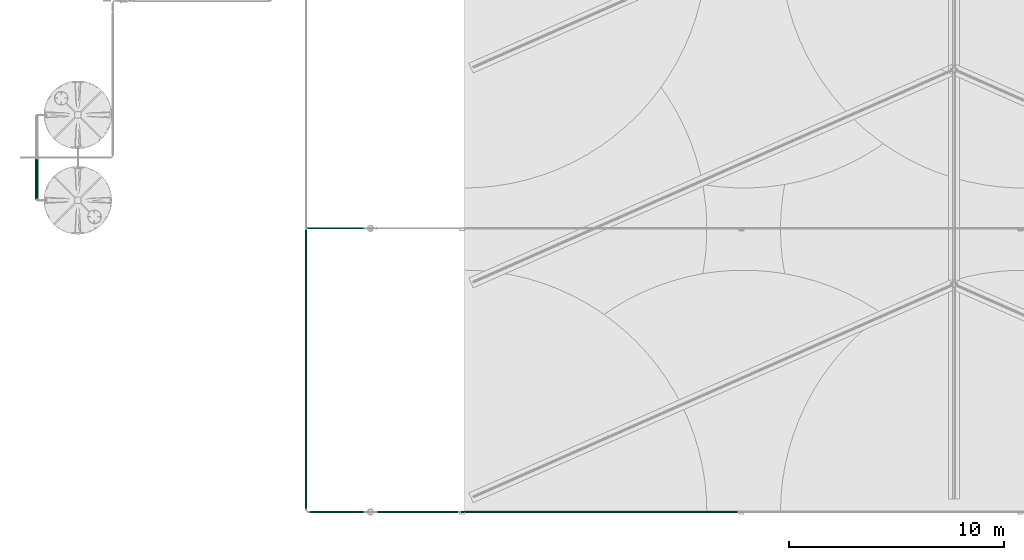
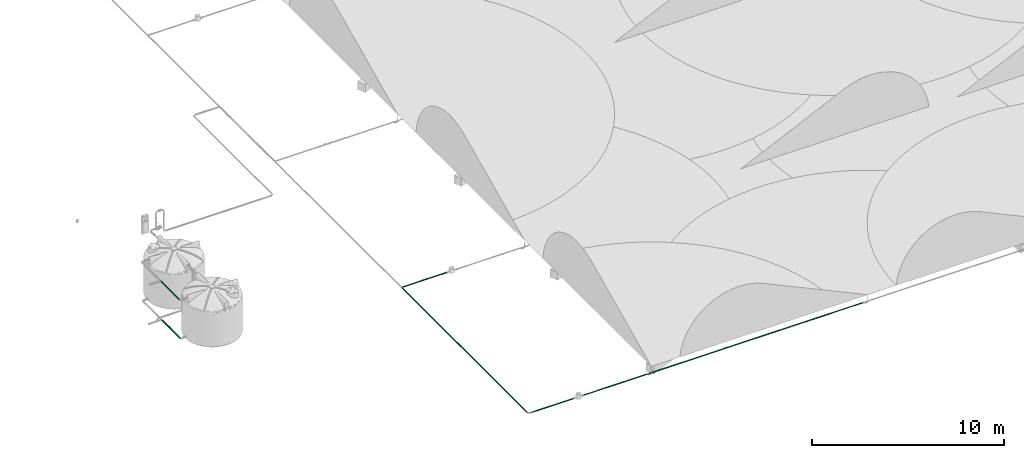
# One storey, part 3 of 166: 7 flow segments.
"""IFC2X3 building model written with IfcOpenShell, lengths in metres."""

from ifc_helpers import new_model, entity, si_unit, converted_unit, direction, frame, frame_2d, origin, origin_2d_with_axis, place, context, subcontext, project, spatial, circle, extrude, type_object, element, save


model = new_model("IFC2X3")

# Units and contexts
model_context = context("Model", 3, precision=1e-05, world=origin(), true_north=direction((6.123233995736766e-17, 1.0)))
body_context = subcontext(model_context, "Body", "Model", "MODEL_VIEW")
ifc_project = project(units=[si_unit("LENGTHUNIT", "METRE"), converted_unit("PLANEANGLEUNIT", "DEGREE", entity("IfcPlaneAngleMeasure", 0.017453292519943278), si_unit("PLANEANGLEUNIT", "RADIAN"), dimensions=[0, 0, 0, 0, 0, 0, 0]), si_unit("AREAUNIT", "SQUARE_METRE")], contexts=[model_context])

# Site, building, storey
site_placement = place(None, origin())
site = spatial("IfcSite", under=ifc_project, at=site_placement, Name="Default", CompositionType="ELEMENT")
building_placement = place(site_placement, origin())
building = spatial("IfcBuilding", under=site, at=building_placement, Name="CASA DE ACOLHIDA PARA IDOSOS", CompositionType="ELEMENT")
storey_placement = place(building_placement, frame((0.0, 0.0, -1.7499999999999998)))
storey = spatial("IfcBuildingStorey", under=building, at=storey_placement, Name="IMPLANTAÇÃO DRENAGEM", CompositionType="ELEMENT", Elevation=-1.7499999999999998)

# Flow segments
pipe_segment_type_1 = type_object("IfcPipeSegmentType", Name="Tipos de tubos:AF_Tubo Marrom Soldável", PredefinedType="NOTDEFINED")
flow_segment_1_placement = place(storey_placement, origin())
element("IfcFlowSegment", 1, at=flow_segment_1_placement, inside=storey, type_object=pipe_segment_type_1, Name="Tipos de tubos:AF_Tubo Marrom Soldável", ObjectType="Tipos de tubos:AF_Tubo Marrom Soldável", context=body_context, shape_type="SweptSolid", body=[
    extrude(circle(Radius=0.037500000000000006, at=origin_2d_with_axis()), frame((-52.13705372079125, -16.629797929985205, -0.2), z_axis=(0.0, 1.0, 0.0), x_axis=(-1.0, 0.0, 0.0)), (0.0, 0.0, 1.0), 13.030739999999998),
])
flow_segment_2_placement = place(storey_placement, origin())
element("IfcFlowSegment", 2, at=flow_segment_2_placement, inside=storey, type_object=pipe_segment_type_1, Name="Tipos de tubos:AF_Tubo Marrom Soldável", ObjectType="Tipos de tubos:AF_Tubo Marrom Soldável", context=body_context, shape_type="SweptSolid", body=[
    extrude(circle(Radius=0.025, at=frame_2d((0.0, -2.707167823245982e-16), x_axis=(1.0, 0.0))), frame((-52.088353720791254, -3.5450579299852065, -0.2000000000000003), z_axis=(1.0, 0.0, 0.0), x_axis=(0.0, -1.0, 0.0)), (0.0, 0.0, 1.0), 2.6719000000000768),
])
flow_segment_3_placement = place(storey_placement, origin())
element("IfcFlowSegment", 3, at=flow_segment_3_placement, inside=storey, type_object=pipe_segment_type_1, Name="Tipos de tubos:AF_Tubo Marrom Soldável", ObjectType="Tipos de tubos:AF_Tubo Marrom Soldável", context=body_context, shape_type="SweptSolid", body=[
    extrude(circle(Radius=0.025, at=frame_2d((0.0, -2.707167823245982e-16), x_axis=(1.0, 0.0))), frame((-52.028353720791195, -16.745057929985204, -0.2000000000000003), z_axis=(1.0, 0.0, 0.0), x_axis=(0.0, -1.0, 0.0)), (0.0, 0.0, 1.0), 2.611900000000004),
])
flow_segment_4_placement = place(storey_placement, origin())
element("IfcFlowSegment", 4, at=flow_segment_4_placement, inside=storey, type_object=pipe_segment_type_1, Name="Tipos de tubos:AF_Tubo Marrom Soldável", ObjectType="Tipos de tubos:AF_Tubo Marrom Soldável", context=body_context, shape_type="SweptSolid", body=[
    extrude(circle(Radius=0.025, at=frame_2d((0.0, -2.707167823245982e-16), x_axis=(1.0, 0.0))), frame((-48.842341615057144, -16.745057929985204, -0.2000000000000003), z_axis=(1.0, 0.0, 0.0), x_axis=(0.0, -1.0, 0.0)), (0.0, 0.0, 1.0), 3.8187927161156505),
])
flow_segment_5_placement = place(storey_placement, origin())
element("IfcFlowSegment", 5, at=flow_segment_5_placement, inside=storey, type_object=pipe_segment_type_1, Name="Tipos de tubos:AF_Tubo Marrom Soldável", ObjectType="Tipos de tubos:AF_Tubo Marrom Soldável", context=body_context, shape_type="SweptSolid", body=[
    extrude(circle(Radius=0.025, at=frame_2d((0.0, -2.707167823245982e-16), x_axis=(1.0, 0.0))), frame((-44.958348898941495, -16.745057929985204, -0.19999999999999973), z_axis=(1.0, 0.0, 0.0), x_axis=(0.0, -1.0, 0.0)), (0.0, 0.0, 1.0), 12.934799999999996),
])
pipe_segment_type_2 = type_object("IfcPipeSegmentType", Name="Tipos de tubos:AF_Tubo Branco Roscável", PredefinedType="NOTDEFINED")
flow_segment_6_placement = place(storey_placement, origin())
element("IfcFlowSegment", 6, at=flow_segment_6_placement, inside=storey, type_object=pipe_segment_type_2, Name="Tipos de tubos:AF_Tubo Branco Roscável", ObjectType="Tipos de tubos:AF_Tubo Branco Roscável", context=body_context, shape_type="SweptSolid", body=[
    extrude(circle(Radius=0.037500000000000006, at=origin_2d_with_axis()), frame((-64.64728057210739, -2.1996781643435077, 0.13343317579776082), z_axis=(0.0, 1.0, 0.0), x_axis=(-1.0, 0.0, 0.0)), (0.0, 0.0, 1.0), 1.8929999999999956),
])
flow_segment_7_placement = place(storey_placement, origin())
element("IfcFlowSegment", 7, at=flow_segment_7_placement, inside=storey, type_object=pipe_segment_type_2, Name="Tipos de tubos:AF_Tubo Branco Roscável", ObjectType="Tipos de tubos:AF_Tubo Branco Roscável", context=body_context, shape_type="SweptSolid", body=[
    extrude(circle(Radius=0.03, at=origin_2d_with_axis()), frame((-64.70728057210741, -2.2027781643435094, 2.615000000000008), z_axis=(0.0, 1.0, 0.0), x_axis=(-1.0, 0.0, 0.0)), (0.0, 0.0, 1.0), 1.9065400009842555),
])

save(model, "model.ifc")
